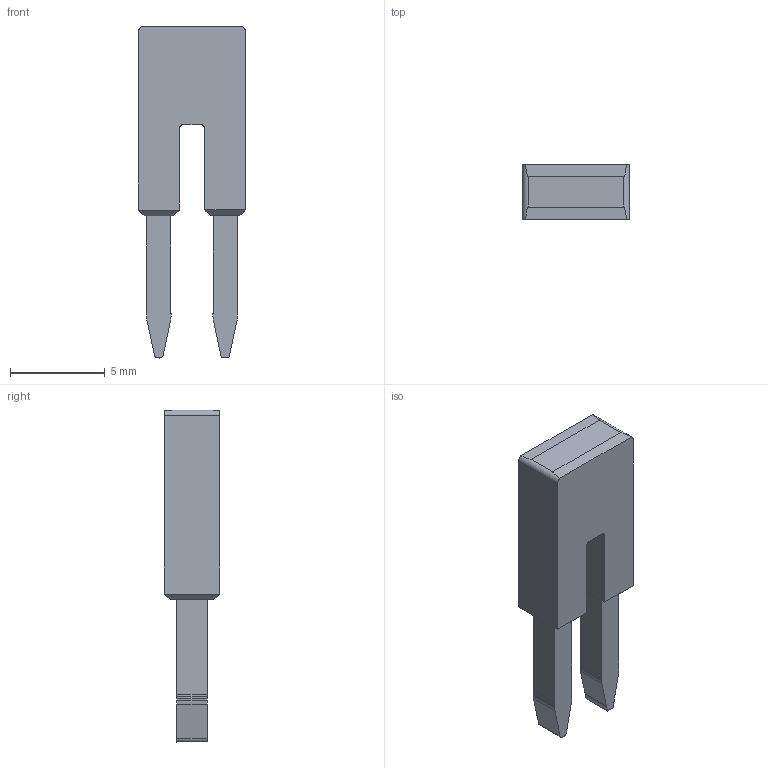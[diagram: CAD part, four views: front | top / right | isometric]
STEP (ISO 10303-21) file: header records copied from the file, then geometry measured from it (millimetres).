
FILE_DESCRIPTION (( 'STEP AP214' ), '1' );
FILE_NAME ('SBF-2-3.5.STEP', '2026-03-30T14:12:24', ( '' ), ( '' ), 'SwSTEP 2.0', 'SolidWorks 2022', '' );
FILE_SCHEMA (( 'AUTOMOTIVE_DESIGN' ));
Length unit declared in the file: millimetre
Products named in the file (1): SBF-2-3.5
Bounding box: 5.65 x 2.9 x 17.5 mm (x, y, z)
Volume: 171.4 mm3; surface area: 292.7 mm2
Topology: 1 solids, 1 shells, 60 faces, 160 edges, 104 vertices
Faces by surface type: plane 40, cylinder 20
Entity records: 1907 total; most frequent: CARTESIAN_POINT 370, ORIENTED_EDGE 320, DIRECTION 307, EDGE_CURVE 160, VECTOR 105, LINE 105, VERTEX_POINT 104, AXIS2_PLACEMENT_3D 101
